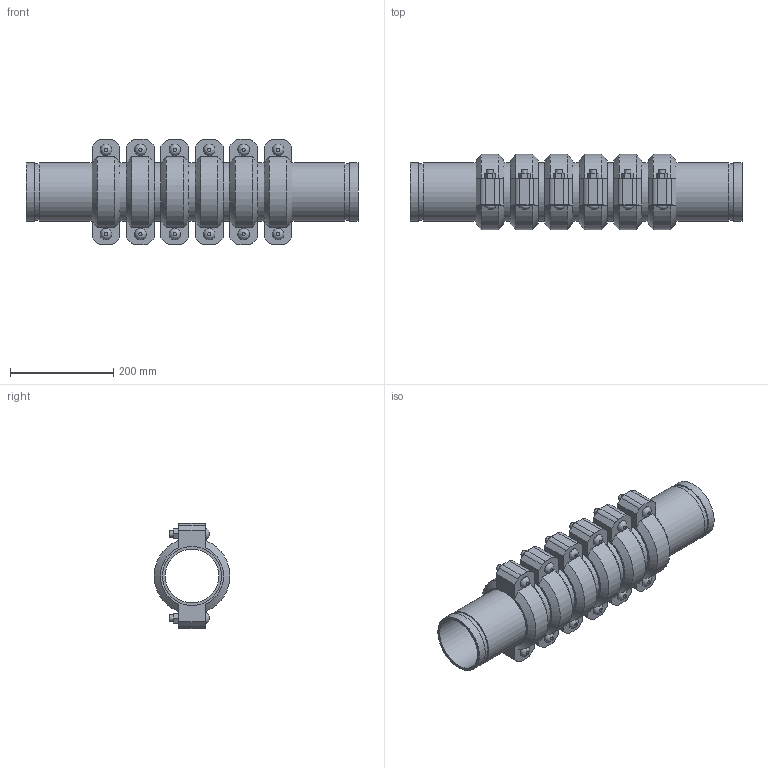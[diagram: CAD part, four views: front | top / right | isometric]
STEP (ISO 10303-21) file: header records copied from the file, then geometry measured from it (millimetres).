
FILE_DESCRIPTION(/* description */ ('VIC SS EXPANSION JOINT 6 COUPLINGS EXPANDED STYLE 155P (OGS) (POTABLE WATER) ','CAx-IF Rec.Pracs.---Representation and Presentation of Product Manufacturing Information (PMI)---4.0---2014-10-13'),/* implementation_level */ '2;1');
FILE_NAME(/* name */ 'C:\Users\kkamble\AppData\Roaming\Autodesk\ApplicationPlugins\Victaulic.Temp\A22\Victaulic_SS_Expansion Joint_Expanded_6 Couplings_Style 155P (OGS)-Potable Water_6 Coup_Expd_4 (100).stp',/* time_stamp */ '2021-07-16T16:54:03+05:00',/* author */ ('kkamble'),/* organization */ ('Victaulic'),/* preprocessor_version */ 'ST-DEVELOPER v17.2',/* originating_system */ 'Autodesk Inventor 2019',/* authorisation */ '');
FILE_SCHEMA (('AP242_MANAGED_MODEL_BASED_3D_ENGINEERING_MIM_LF { 1 0 10303 442 1 1 4 }'));
Length unit declared in the file: inch
Products named in the file (4): 155-04.0; Nipple-04.0; Nipple-04.0_1; 075-04.0
Assembly tree (13 placements, depth 2):
  155-04.0
    Nipple-04.0  x2
    Nipple-04.0_1  x5
    075-04.0  x6
Bounding box: 644.4 x 147.32 x 203.96 mm (x, y, z)
Volume: 3905419.7 mm3; surface area: 939960.1 mm2
Topology: 13 solids, 25 shells, 426 faces, 1008 edges, 708 vertices
Faces by surface type: plane 258, cylinder 132, cone 24, bspline 12
Full cylindrical faces by diameter (mm): 12.7 x24, 14.605 x12, 103.988 x7, 107.95 x6, 110.084 x14, 114.3 x33
Entity records: 2808 total; most frequent: CARTESIAN_POINT 497, DIRECTION 469, ORIENTED_EDGE 386, EDGE_CURVE 193, AXIS2_PLACEMENT_3D 188, VERTEX_POINT 138, EDGE_LOOP 107, LINE 93
